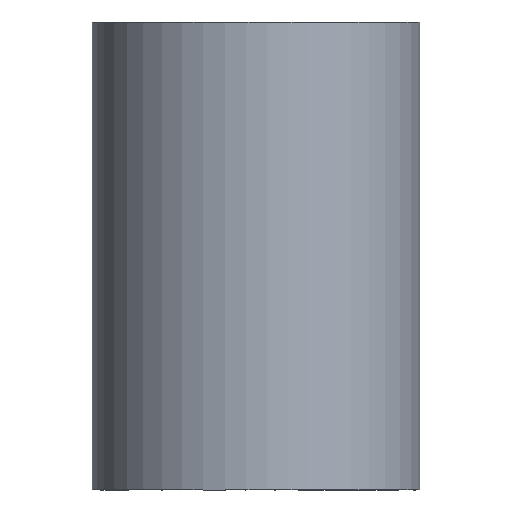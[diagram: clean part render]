
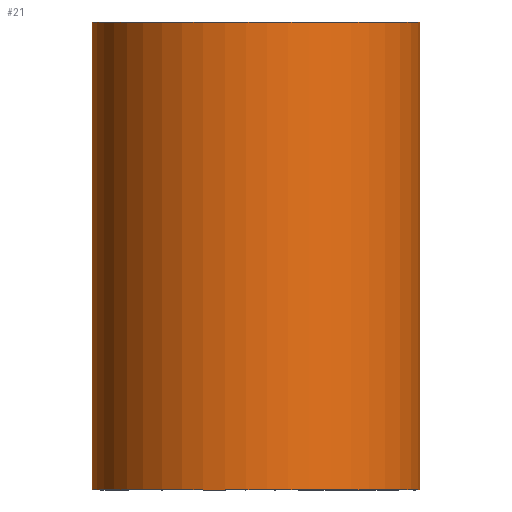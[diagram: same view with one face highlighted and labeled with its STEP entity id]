
A CAD part, front view. The second image highlights one B-rep face of the part: STEP entity #21.
In plain terms, the highlighted free-form (B-spline) face has degree [1, 2] with [2, 5] control points.
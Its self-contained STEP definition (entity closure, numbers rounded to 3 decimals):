
#21=ADVANCED_FACE('',(#27),#97,.T.);
#27=FACE_OUTER_BOUND('',#35,.T.);
#35=EDGE_LOOP('',(#53,#54,#55,#56));
#53=ORIENTED_EDGE('',*,*,#67,.T.);
#54=ORIENTED_EDGE('',*,*,#69,.T.);
#55=ORIENTED_EDGE('',*,*,#62,.F.);
#56=ORIENTED_EDGE('',*,*,#68,.F.);
#62=EDGE_CURVE('',#85,#86,#74,.T.);
#67=EDGE_CURVE('',#89,#90,#79,.T.);
#68=EDGE_CURVE('',#89,#85,#80,.T.);
#69=EDGE_CURVE('',#90,#86,#81,.T.);
#74=(
BOUNDED_CURVE()
B_SPLINE_CURVE(1,(#184,#185),.UNSPECIFIED.,.F.,.F.)
B_SPLINE_CURVE_WITH_KNOTS((2,2),(0.,30.),.UNSPECIFIED.)
CURVE()
GEOMETRIC_REPRESENTATION_ITEM()
RATIONAL_B_SPLINE_CURVE((1.,1.))
REPRESENTATION_ITEM('')
);
#79=(
BOUNDED_CURVE()
B_SPLINE_CURVE(1,(#203,#204),.UNSPECIFIED.,.F.,.F.)
B_SPLINE_CURVE_WITH_KNOTS((2,2),(0.,30.),.UNSPECIFIED.)
CURVE()
GEOMETRIC_REPRESENTATION_ITEM()
RATIONAL_B_SPLINE_CURVE((1.,1.))
REPRESENTATION_ITEM('')
);
#80=(
BOUNDED_CURVE()
B_SPLINE_CURVE(2,(#205,#206,#207,#208,#209),.UNSPECIFIED.,.F.,.F.)
B_SPLINE_CURVE_WITH_KNOTS((3,2,3),(32.987,49.48,65.973),
 .UNSPECIFIED.)
CURVE()
GEOMETRIC_REPRESENTATION_ITEM()
RATIONAL_B_SPLINE_CURVE((1.,0.707,1.,0.707,1.))
REPRESENTATION_ITEM('')
);
#81=(
BOUNDED_CURVE()
B_SPLINE_CURVE(2,(#210,#211,#212,#213,#214),.UNSPECIFIED.,.F.,.F.)
B_SPLINE_CURVE_WITH_KNOTS((3,2,3),(32.987,49.48,65.973),
 .UNSPECIFIED.)
CURVE()
GEOMETRIC_REPRESENTATION_ITEM()
RATIONAL_B_SPLINE_CURVE((1.,0.707,1.,0.707,1.))
REPRESENTATION_ITEM('')
);
#85=VERTEX_POINT('',#171);
#86=VERTEX_POINT('',#172);
#89=VERTEX_POINT('',#175);
#90=VERTEX_POINT('',#176);
#97=(
BOUNDED_SURFACE()
B_SPLINE_SURFACE(1,2,((#151,#152,#153,#154,#155),(#156,#157,#158,#159,#160)),
 .UNSPECIFIED.,.F.,.F.,.F.)
B_SPLINE_SURFACE_WITH_KNOTS((2,2),(3,2,3),(0.,30.),(32.987,49.48,
65.973),.UNSPECIFIED.)
GEOMETRIC_REPRESENTATION_ITEM()
RATIONAL_B_SPLINE_SURFACE(((1.,0.707,1.,0.707,1.),
(1.,0.707,1.,0.707,1.)))
REPRESENTATION_ITEM('')
SURFACE()
);
#151=CARTESIAN_POINT('',(-63.222,177.972,407.148));
#152=CARTESIAN_POINT('',(-63.222,167.472,407.148));
#153=CARTESIAN_POINT('',(-73.722,167.472,407.148));
#154=CARTESIAN_POINT('',(-84.222,167.472,407.148));
#155=CARTESIAN_POINT('',(-84.222,177.972,407.148));
#156=CARTESIAN_POINT('',(-63.222,177.972,437.148));
#157=CARTESIAN_POINT('',(-63.222,167.472,437.148));
#158=CARTESIAN_POINT('',(-73.722,167.472,437.148));
#159=CARTESIAN_POINT('',(-84.222,167.472,437.148));
#160=CARTESIAN_POINT('',(-84.222,177.972,437.148));
#171=CARTESIAN_POINT('',(-84.222,177.972,407.148));
#172=CARTESIAN_POINT('',(-84.222,177.972,437.148));
#175=CARTESIAN_POINT('',(-63.222,177.972,407.148));
#176=CARTESIAN_POINT('',(-63.222,177.972,437.148));
#184=CARTESIAN_POINT('',(-84.222,177.972,407.148));
#185=CARTESIAN_POINT('',(-84.222,177.972,437.148));
#203=CARTESIAN_POINT('',(-63.222,177.972,407.148));
#204=CARTESIAN_POINT('',(-63.222,177.972,437.148));
#205=CARTESIAN_POINT('',(-63.222,177.972,407.148));
#206=CARTESIAN_POINT('',(-63.222,167.472,407.148));
#207=CARTESIAN_POINT('',(-73.722,167.472,407.148));
#208=CARTESIAN_POINT('',(-84.222,167.472,407.148));
#209=CARTESIAN_POINT('',(-84.222,177.972,407.148));
#210=CARTESIAN_POINT('',(-63.222,177.972,437.148));
#211=CARTESIAN_POINT('',(-63.222,167.472,437.148));
#212=CARTESIAN_POINT('',(-73.722,167.472,437.148));
#213=CARTESIAN_POINT('',(-84.222,167.472,437.148));
#214=CARTESIAN_POINT('',(-84.222,177.972,437.148));
